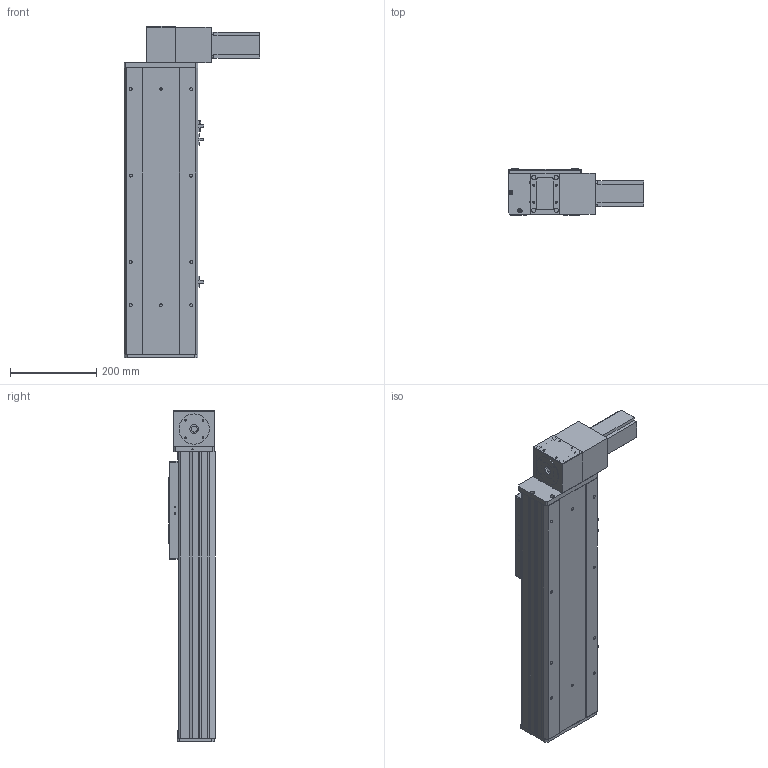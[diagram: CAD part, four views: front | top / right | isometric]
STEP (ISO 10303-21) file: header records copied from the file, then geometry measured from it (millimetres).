
FILE_DESCRIPTION (( 'STEP AP203' ), '1' );
FILE_NAME ('Y170CB-D105-S350-BD-P400W.STEP', '2020-02-20T08:12:01', ( '微软用户' ), ( '微软中国' ), 'SwSTEP 2.0', 'SolidWorks 2017', '' );
FILE_SCHEMA (( 'CONFIG_CONTROL_DESIGN' ));
Length unit declared in the file: millimetre
Products named in the file (16): 0C--雄赽釱俋欶-170; B-源倛裔啣; 70CB-詩湍--; san松下电机400不带刹车----; Y100-135俋离換覜ん--; 70CB-掛极-; Y170CB-陔俋离換覜結え---; --70CB --喘謫眊楊擘啣-; Y1埴倛裔; 70CB-耜裔啣-; 70B喘謫眊----; 70C--詩湍揤踡え-; 0B薊粣ん眊-400W--; 70CB--耜裔; Y170CB-D105-S350-BD-P400W; 70C-雄赽釱-奻-
Assembly tree (19 placements, depth 2):
  Y170CB-D105-S350-BD-P400W
    B-源倛裔啣
    san松下电机400不带刹车----
    70CB-掛极-
    --70CB --喘謫眊楊擘啣-
    70CB-耜裔啣-  x2
    70C--詩湍揤踡え-  x2
    70CB--耜裔
    70C-雄赽釱-奻-
    0C--雄赽釱俋欶-170
    70CB-詩湍--
    Y100-135俋离換覜ん--  x3
    Y170CB-陔俋离換覜結え---
    Y1埴倛裔
    70B喘謫眊----
    0B薊粣ん眊-400W--
Bounding box: 313.5 x 107 x 766 mm (x, y, z)
Volume: 4267287.7 mm3; surface area: 1384105.2 mm2
Topology: 19 solids, 19 shells, 896 faces, 2354 edges, 1560 vertices
Faces by surface type: cylinder 450, plane 422, cone 24
Entity records: 27843 total; most frequent: CARTESIAN_POINT 5146, DIRECTION 4527, ORIENTED_EDGE 4190, EDGE_CURVE 2095, AXIS2_PLACEMENT_3D 1661, VERTEX_POINT 1390, VECTOR 1205, LINE 1205
